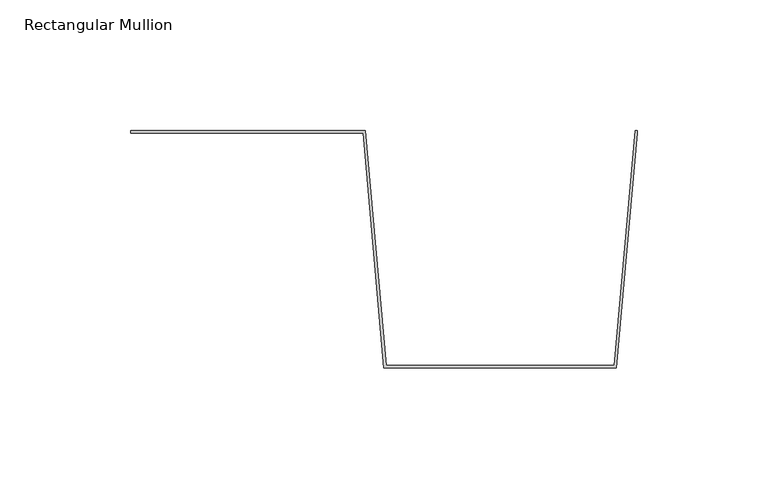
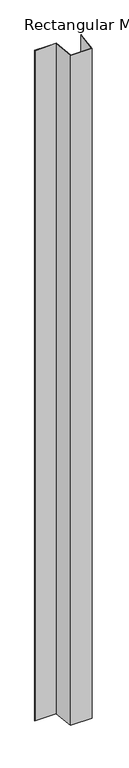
"""IFC4 building model written with IfcOpenShell, lengths in millimetres: member geometry, Rectangular Mullion : CD_NINELINE_Box Intermediate."""

from ifc_helpers import new_model, si_unit, frame, origin, place, context, project, spatial, polyline, outline, extrude, source, transform, mapped, element, save


def rectangular_mullion_f458c6f7(model_context):
    return source(origin(), model_context, "Body", "SweptSolid", [
        extrude(outline(polyline([(0.0, 0.0), (89.911879, 0.0), (97.911879, -90.0), (185.088121, -90.0), (193.088121, 0.0), (194.0, 0.0), (194.0, -1.0357186), (186.0, -91.0357186), (97.0, -91.0357186), (88.996825, -1.0), (0.0, -1.0), (0.0, 0.0)])), frame((0.0, 0.0, -2942.0), z_axis=(0.0, 0.0, 1.0), x_axis=(1.0, 0.0, 0.0)), (0.0, 0.0, 1.0), 2942.0),
    ])


if __name__ == "__main__":
    model = new_model("IFC4")
    model_context = context("Model", 3, world=origin())
    ifc_project = project(units=[si_unit("LENGTHUNIT", "METRE", prefix="MILLI")], contexts=[model_context])
    site = spatial("IfcSite", under=ifc_project)
    building = spatial("IfcBuilding", under=site)
    placement = place(None, origin())
    rectangular_mullion_shape = rectangular_mullion_f458c6f7(model_context)
    element("IfcMember", 1, ObjectType="Rectangular Mullion : CD_NINELINE_Box Intermediate", at=placement, inside=building, context=model_context, shape_type="MappedRepresentation", body=[
        mapped(rectangular_mullion_shape, transform((0.0, 0.0, 0.0), x_axis=(1.0, 0.0, 0.0), y_axis=(0.0, 1.0, 0.0), z_axis=(0.0, 0.0, 1.0))),
    ])
    save(model, "model.ifc")
